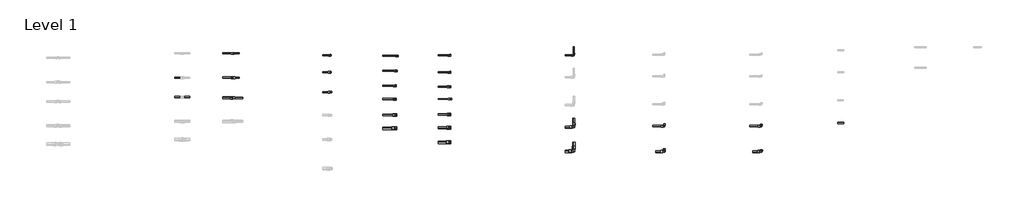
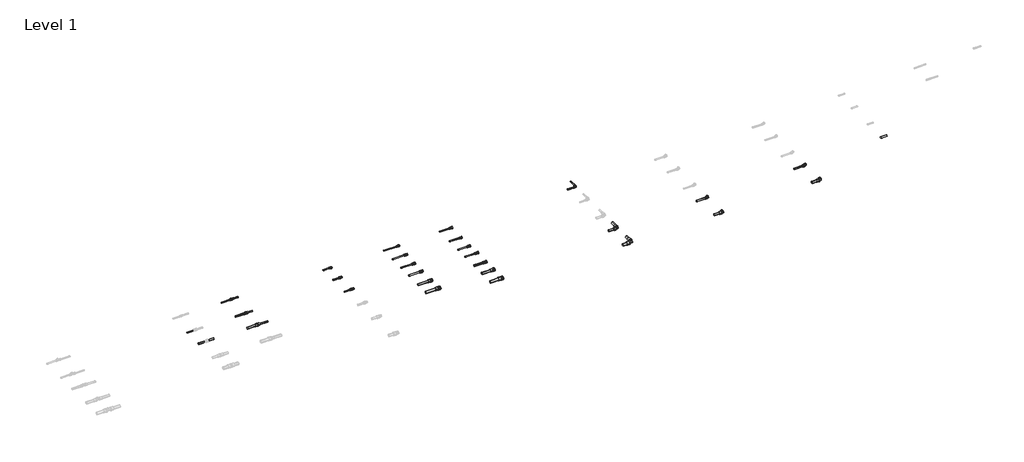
# One storey, part 11 of 78: 36 pipe segments, 26 pipe fittings.
"""IFC4 building model written with IfcOpenShell, lengths in millimetres."""

from ifc_helpers import new_model, si_unit, point, frame, frame_2d, origin, place, context, project, spatial, circle_curve, trimmed, segment, composite_curve, outline, extrude, transform, mapped, element, save
from components import pipe_fitting_bf755f27, pipe_fitting_e93012df, pipe_fitting_836a2278, pipe_fitting_b55198ad, pipe_fitting_0b32e4b0, pipe_fitting_0562571e, pipe_fitting_d14a7251, pipe_fitting_38e91122, pipe_fitting_ee510fd7, pipe_fitting_a340ff43, pipe_fitting_d52baa13, pipe_fitting_c8bca06d, pipe_fitting_5bbd4ca1, pipe_fitting_80b7091b, pipe_fitting_ce7225c3, pipe_fitting_edf19c19, pipe_fitting_f2230aa0, pipe_fitting_b873231b, pipe_fitting_68aa3d98, pipe_fitting_ea484583, pipe_fitting_c3764643, pipe_fitting_f8d70d0e, pipe_fitting_18fcccac, pipe_fitting_1e296f3b, pipe_fitting_52b87474, pipe_fitting_f7ee4d9f

model = new_model("IFC4")

# Units and contexts
model_context = context("Model", 3, world=origin())
ifc_project = project(units=[si_unit("LENGTHUNIT", "METRE", prefix="MILLI")], contexts=[model_context])

# Site, building, storey
site = spatial("IfcSite", under=ifc_project)
building = spatial("IfcBuilding", under=site)
storey = spatial("IfcBuildingStorey", under=building, Name="Level 1", Elevation=0.0)

# Pipe fittings
placement = place(None, origin())
pipe_fitting_shape = pipe_fitting_bf755f27(model_context)
element("IfcPipeFitting", 1, ObjectType="FASTLOC_Adapter with union nut LX : FSL A union nut FR", at=placement, inside=storey, context=model_context, shape_type="MappedRepresentation", body=[
    mapped(pipe_fitting_shape, transform((9492.2422207, -28330.7057457, 0.0), x_axis=(1.0, 0.0, 0.0), y_axis=(0.0, 1.0, 0.0), z_axis=(0.0, 0.0, 1.0))),
])
pipe_fitting_2_shape = pipe_fitting_e93012df(model_context)
element("IfcPipeFitting", 2, ObjectType="FASTLOC_Adapter_LX, with external thread : FSL A C external FR", at=placement, inside=storey, context=model_context, shape_type="MappedRepresentation", body=[
    mapped(pipe_fitting_2_shape, transform((7526.3785179, -27135.7057457, 0.0), x_axis=(1.0, 0.0, 0.0), y_axis=(0.0, 1.0, 0.0), z_axis=(0.0, 0.0, 1.0))),
])
pipe_fitting_3_shape = pipe_fitting_836a2278(model_context)
element("IfcPipeFitting", 3, ObjectType="FASTLOC_Adapter_LX, with internal thread : FSL A internal FR", at=placement, inside=storey, context=model_context, shape_type="MappedRepresentation", body=[
    mapped(pipe_fitting_3_shape, transform((8631.9138788, -27146.1148632, 0.0), x_axis=(1.0, 0.0, 0.0), y_axis=(0.0, 1.0, 0.0), z_axis=(0.0, 0.0, 1.0))),
])
pipe_fitting_4_shape = pipe_fitting_b55198ad(model_context)
element("IfcPipeFitting", 4, ObjectType="FASTLOC_Corner LX : FSL C LX FR", at=placement, inside=storey, context=model_context, shape_type="MappedRepresentation", body=[
    mapped(pipe_fitting_4_shape, transform((11545.4707441, -27138.8136389, 0.0), x_axis=(1.0, 0.0, 0.0), y_axis=(0.0, 1.0, 0.0), z_axis=(0.0, 0.0, 1.0))),
])
pipe_fitting_5_shape = pipe_fitting_0b32e4b0(model_context)
element("IfcPipeFitting", 5, ObjectType="FASTLOC_Coupling reduced LX : FSL C LX FR", at=placement, inside=storey, context=model_context, shape_type="MappedRepresentation", body=[
    mapped(pipe_fitting_5_shape, transform((5926.6928556, -27105.8821283, 0.0), x_axis=(1.0, 0.0, 0.0), y_axis=(0.0, 1.0, 0.0), z_axis=(0.0, 0.0, 1.0))),
])
pipe_fitting_6_shape = pipe_fitting_0562571e(model_context)
element("IfcPipeFitting", 6, ObjectType="FASTLOC_Coupling reduced LX : FSL C LX FR", at=placement, inside=storey, context=model_context, shape_type="MappedRepresentation", body=[
    mapped(pipe_fitting_6_shape, transform((5926.6928556, -27505.8821283, 0.0), x_axis=(1.0, 0.0, 0.0), y_axis=(0.0, 1.0, 0.0), z_axis=(0.0, 0.0, 1.0))),
])
pipe_fitting_7_shape = pipe_fitting_d14a7251(model_context)
element("IfcPipeFitting", 7, ObjectType="FASTLOC_Coupling reduced LX : FSL C LX FR", at=placement, inside=storey, context=model_context, shape_type="MappedRepresentation", body=[
    mapped(pipe_fitting_7_shape, transform((5926.6928556, -27838.3821283, 0.0), x_axis=(1.0, 0.0, 0.0), y_axis=(0.0, 1.0, 0.0), z_axis=(0.0, 0.0, 1.0))),
])
pipe_fitting_8_shape = pipe_fitting_38e91122(model_context)
element("IfcPipeFitting", 8, ObjectType="FASTLOC_Adapter_LX, with external thread : FSL A C external FR", at=placement, inside=storey, context=model_context, shape_type="MappedRepresentation", body=[
    mapped(pipe_fitting_8_shape, transform((7526.8953131, -27414.2068389, 0.0), x_axis=(1.0, 0.0, 0.0), y_axis=(0.0, 1.0, 0.0), z_axis=(0.0, 0.0, 1.0))),
])
pipe_fitting_9_shape = pipe_fitting_ee510fd7(model_context)
element("IfcPipeFitting", 9, ObjectType="FASTLOC_Adapter_LX, with external thread : FSL A C external FR", at=placement, inside=storey, context=model_context, shape_type="MappedRepresentation", body=[
    mapped(pipe_fitting_9_shape, transform((7526.8953131, -27744.2068389, 0.0), x_axis=(1.0, 0.0, 0.0), y_axis=(0.0, 1.0, 0.0), z_axis=(0.0, 0.0, 1.0))),
])
pipe_fitting_10_shape = pipe_fitting_a340ff43(model_context)
element("IfcPipeFitting", 10, ObjectType="FASTLOC_Adapter with union nut LX : FSL A union nut FR", at=placement, inside=storey, context=model_context, shape_type="MappedRepresentation", body=[
    mapped(pipe_fitting_10_shape, transform((9492.2422207, -27415.7057457, 0.0), x_axis=(1.0, 0.0, 0.0), y_axis=(0.0, 1.0, 0.0), z_axis=(0.0, 0.0, 1.0))),
])
pipe_fitting_11_shape = pipe_fitting_d52baa13(model_context)
element("IfcPipeFitting", 11, ObjectType="FASTLOC_Adapter with union nut LX : FSL A union nut FR", at=placement, inside=storey, context=model_context, shape_type="MappedRepresentation", body=[
    mapped(pipe_fitting_11_shape, transform((9492.2422207, -27655.7057457, 0.0), x_axis=(1.0, 0.0, 0.0), y_axis=(0.0, 1.0, 0.0), z_axis=(0.0, 0.0, 1.0))),
])
pipe_fitting_12_shape = pipe_fitting_c8bca06d(model_context)
element("IfcPipeFitting", 12, ObjectType="FASTLOC_Adapter with union nut LX : FSL A union nut FR", at=placement, inside=storey, context=model_context, shape_type="MappedRepresentation", body=[
    mapped(pipe_fitting_12_shape, transform((9506.3843564, -27856.5636101, 0.0), x_axis=(1.0, 0.0, 0.0), y_axis=(0.0, 1.0, 0.0), z_axis=(0.0, 0.0, 1.0))),
])
pipe_fitting_13_shape = pipe_fitting_5bbd4ca1(model_context)
element("IfcPipeFitting", 13, ObjectType="FASTLOC_Adapter with union nut LX : FSL A union nut FR", at=placement, inside=storey, context=model_context, shape_type="MappedRepresentation", body=[
    mapped(pipe_fitting_13_shape, transform((9492.2422207, -28110.7057457, 0.0), x_axis=(1.0, 0.0, 0.0), y_axis=(0.0, 1.0, 0.0), z_axis=(0.0, 0.0, 1.0))),
])
pipe_fitting_14_shape = pipe_fitting_80b7091b(model_context)
element("IfcPipeFitting", 14, ObjectType="FASTLOC_Adapter with union nut LX : FSL A union nut FR", at=placement, inside=storey, context=model_context, shape_type="MappedRepresentation", body=[
    mapped(pipe_fitting_14_shape, transform((9492.2422207, -28570.7057457, 0.0), x_axis=(1.0, 0.0, 0.0), y_axis=(0.0, 1.0, 0.0), z_axis=(0.0, 0.0, 1.0))),
])
pipe_fitting_15_shape = pipe_fitting_ce7225c3(model_context)
element("IfcPipeFitting", 15, ObjectType="FASTLOC_Adapter with union nut LX : FSL A union nut FR", at=placement, inside=storey, context=model_context, shape_type="MappedRepresentation", body=[
    mapped(pipe_fitting_15_shape, transform((9492.2422207, -27135.7057457, 0.0), x_axis=(1.0, 0.0, 0.0), y_axis=(0.0, 1.0, 0.0), z_axis=(0.0, 0.0, 1.0))),
])
pipe_fitting_16_shape = pipe_fitting_edf19c19(model_context)
element("IfcPipeFitting", 16, ObjectType="FASTLOC_Corner LX : FSL C LX FR", at=placement, inside=storey, context=model_context, shape_type="MappedRepresentation", body=[
    mapped(pipe_fitting_16_shape, transform((11545.4707441, -28318.8136389, 0.0), x_axis=(1.0, 0.0, 0.0), y_axis=(0.0, 1.0, 0.0), z_axis=(0.0, 0.0, 1.0))),
])
pipe_fitting_17_shape = pipe_fitting_f2230aa0(model_context)
element("IfcPipeFitting", 17, ObjectType="FASTLOC_Corner LX : FSL C LX FR", at=placement, inside=storey, context=model_context, shape_type="MappedRepresentation", body=[
    mapped(pipe_fitting_17_shape, transform((11545.4707441, -28718.8136389, 0.0), x_axis=(1.0, 0.0, 0.0), y_axis=(0.0, 1.0, 0.0), z_axis=(0.0, 0.0, 1.0))),
])
pipe_fitting_18_shape = pipe_fitting_b873231b(model_context)
element("IfcPipeFitting", 18, ObjectType="FASTLOC_Elbow with male thread LX : FSL A internal FR", at=placement, inside=storey, context=model_context, shape_type="MappedRepresentation", body=[
    mapped(pipe_fitting_18_shape, transform((13036.9744513, -28304.4914884, 0.0), x_axis=(1.0, 0.0, 0.0), y_axis=(0.0, 1.0, 0.0), z_axis=(0.0, 0.0, 1.0))),
])
pipe_fitting_19_shape = pipe_fitting_68aa3d98(model_context)
element("IfcPipeFitting", 19, ObjectType="FASTLOC_Elbow with male thread LX : FSL A internal FR", at=placement, inside=storey, context=model_context, shape_type="MappedRepresentation", body=[
    mapped(pipe_fitting_19_shape, transform((13036.9744513, -28724.4914884, 0.0), x_axis=(1.0, 0.0, 0.0), y_axis=(0.0, 1.0, 0.0), z_axis=(0.0, 0.0, 1.0))),
])
pipe_fitting_20_shape = pipe_fitting_ea484583(model_context)
element("IfcPipeFitting", 20, ObjectType="FASTLOC_Elbow with female thread LX : FSL A internal FR", at=placement, inside=storey, context=model_context, shape_type="MappedRepresentation", body=[
    mapped(pipe_fitting_20_shape, transform((14636.9744513, -28304.4914884, 0.0), x_axis=(1.0, 0.0, 0.0), y_axis=(0.0, 1.0, 0.0), z_axis=(0.0, 0.0, 1.0))),
])
pipe_fitting_21_shape = pipe_fitting_c3764643(model_context)
element("IfcPipeFitting", 21, ObjectType="FASTLOC_Elbow with female thread LX : FSL A internal FR", at=placement, inside=storey, context=model_context, shape_type="MappedRepresentation", body=[
    mapped(pipe_fitting_21_shape, transform((14636.9744513, -28724.4914884, 0.0), x_axis=(1.0, 0.0, 0.0), y_axis=(0.0, 1.0, 0.0), z_axis=(0.0, 0.0, 1.0))),
])
pipe_fitting_22_shape = pipe_fitting_f8d70d0e(model_context)
element("IfcPipeFitting", 22, ObjectType="FASTLOC_Adapter_LX, with internal thread : FSL A internal FR", at=placement, inside=storey, context=model_context, shape_type="MappedRepresentation", body=[
    mapped(pipe_fitting_22_shape, transform((8602.7717432, -27640.2569989, 0.0), x_axis=(1.0, 0.0, 0.0), y_axis=(0.0, 1.0, 0.0), z_axis=(0.0, 0.0, 1.0))),
])
pipe_fitting_23_shape = pipe_fitting_18fcccac(model_context)
element("IfcPipeFitting", 23, ObjectType="FASTLOC_Adapter_LX, with internal thread : FSL A internal FR", at=placement, inside=storey, context=model_context, shape_type="MappedRepresentation", body=[
    mapped(pipe_fitting_23_shape, transform((8602.7717432, -27860.2569989, 0.0), x_axis=(1.0, 0.0, 0.0), y_axis=(0.0, 1.0, 0.0), z_axis=(0.0, 0.0, 1.0))),
])
pipe_fitting_24_shape = pipe_fitting_1e296f3b(model_context)
element("IfcPipeFitting", 24, ObjectType="FASTLOC_Adapter_LX, with internal thread : FSL A internal FR", at=placement, inside=storey, context=model_context, shape_type="MappedRepresentation", body=[
    mapped(pipe_fitting_24_shape, transform((8602.7717432, -28120.2569989, 0.0), x_axis=(1.0, 0.0, 0.0), y_axis=(0.0, 1.0, 0.0), z_axis=(0.0, 0.0, 1.0))),
])
pipe_fitting_25_shape = pipe_fitting_52b87474(model_context)
element("IfcPipeFitting", 25, ObjectType="FASTLOC_Adapter_LX, with internal thread : FSL A internal FR", at=placement, inside=storey, context=model_context, shape_type="MappedRepresentation", body=[
    mapped(pipe_fitting_25_shape, transform((8602.7717432, -28340.2569989, 0.0), x_axis=(1.0, 0.0, 0.0), y_axis=(0.0, 1.0, 0.0), z_axis=(0.0, 0.0, 1.0))),
])
pipe_fitting_26_shape = pipe_fitting_f7ee4d9f(model_context)
element("IfcPipeFitting", 26, ObjectType="FASTLOC_Adapter_LX, with internal thread : FSL A internal FR", at=placement, inside=storey, context=model_context, shape_type="MappedRepresentation", body=[
    mapped(pipe_fitting_26_shape, transform((8619.5138788, -27392.5715861, 0.0), x_axis=(1.0, 0.0, 0.0), y_axis=(0.0, 1.0, 0.0), z_axis=(0.0, 0.0, 1.0))),
])

# Pipe segments
element("IfcPipeSegment", 27, ObjectType="FASTLOC LX ML FR bar", at=placement, inside=storey, context=model_context, shape_type="SweptSolid", body=[
    extrude(outline(composite_curve([segment(trimmed(circle_curve(frame_2d((-27505.8821283, 0.0)), 8.0), [point((-27497.8821283, 0.0))], [point((-27505.8821283, -8.0))], False, "CARTESIAN"), True, "CONTINUOUS"), segment(trimmed(circle_curve(frame_2d((-27505.8821283, 0.0)), 8.0), [point((-27505.8821283, -8.0))], [point((-27513.8821283, 0.0))], False, "CARTESIAN"), True, "CONTINUOUS"), segment(trimmed(circle_curve(frame_2d((-27505.8821283, 0.0)), 8.0), [point((-27513.8821283, 0.0))], [point((-27505.8821283, 8.0))], False, "CARTESIAN"), True, "CONTINUOUS"), segment(trimmed(circle_curve(frame_2d((-27505.8821283, 0.0)), 8.0), [point((-27505.8821283, 8.0))], [point((-27497.8821283, 0.0))], False, "CARTESIAN"), True, "CONTINUOUS")], self_intersect=False)), frame((4961.1790161, 0.0, 0.0), z_axis=(1.0, 0.0, 0.0), x_axis=(0.0, 1.0, 0.0)), (0.0, 0.0, 1.0), 119.8),
])
element("IfcPipeSegment", 28, ObjectType="FASTLOC LX ML FR bar", at=placement, inside=storey, context=model_context, shape_type="SweptSolid", body=[
    extrude(outline(composite_curve([segment(trimmed(circle_curve(frame_2d((-27825.8821283, 0.0)), 12.5), [point((-27838.3821283, 0.0))], [point((-27825.8821283, 12.5))], False, "CARTESIAN"), True, "CONTINUOUS"), segment(trimmed(circle_curve(frame_2d((-27825.8821283, 0.0)), 12.5), [point((-27825.8821283, 12.5))], [point((-27813.3821283, 0.0))], False, "CARTESIAN"), True, "CONTINUOUS"), segment(trimmed(circle_curve(frame_2d((-27825.8821283, 0.0)), 12.5), [point((-27813.3821283, 0.0))], [point((-27825.8821283, -12.5))], False, "CARTESIAN"), True, "CONTINUOUS"), segment(trimmed(circle_curve(frame_2d((-27825.8821283, 0.0)), 12.5), [point((-27825.8821283, -12.5))], [point((-27838.3821283, 0.0))], False, "CARTESIAN"), True, "CONTINUOUS")], self_intersect=False)), frame((5096.3790161, 0.0, 0.0), z_axis=(1.0, 0.0, 0.0), x_axis=(0.0, 1.0, 0.0)), (0.0, 0.0, 1.0), 114.2),
])
element("IfcPipeSegment", 29, ObjectType="FASTLOC LX ML FR bar", at=placement, inside=storey, context=model_context, shape_type="SweptSolid", body=[
    extrude(outline(composite_curve([segment(trimmed(circle_curve(frame_2d((-27825.8821283, 0.0)), 12.5), [point((-27813.3821283, 0.0))], [point((-27825.8821283, -12.5))], False, "CARTESIAN"), True, "CONTINUOUS"), segment(trimmed(circle_curve(frame_2d((-27825.8821283, 0.0)), 12.5), [point((-27825.8821283, -12.5))], [point((-27838.3821283, 0.0))], False, "CARTESIAN"), True, "CONTINUOUS"), segment(trimmed(circle_curve(frame_2d((-27825.8821283, 0.0)), 12.5), [point((-27838.3821283, 0.0))], [point((-27825.8821283, 12.5))], False, "CARTESIAN"), True, "CONTINUOUS"), segment(trimmed(circle_curve(frame_2d((-27825.8821283, 0.0)), 12.5), [point((-27825.8821283, 12.5))], [point((-27813.3821283, 0.0))], False, "CARTESIAN"), True, "CONTINUOUS")], self_intersect=False)), frame((4961.1790161, 0.0, 0.0), z_axis=(1.0, 0.0, 0.0), x_axis=(0.0, 1.0, 0.0)), (0.0, 0.0, 1.0), 119.2),
])
element("IfcPipeSegment", 30, ObjectType="FASTLOC LX ML FR bar", at=placement, inside=storey, context=model_context, shape_type="SweptSolid", body=[
    extrude(outline(composite_curve([segment(trimmed(circle_curve(frame_2d((-27105.8821283, 0.0)), 8.0), [point((-27113.8821283, 0.0))], [point((-27105.8821283, 8.0))], False, "CARTESIAN"), True, "CONTINUOUS"), segment(trimmed(circle_curve(frame_2d((-27105.8821283, 0.0)), 8.0), [point((-27105.8821283, 8.0))], [point((-27097.8821283, 0.0))], False, "CARTESIAN"), True, "CONTINUOUS"), segment(trimmed(circle_curve(frame_2d((-27105.8821283, 0.0)), 8.0), [point((-27097.8821283, 0.0))], [point((-27105.8821283, -8.0))], False, "CARTESIAN"), True, "CONTINUOUS"), segment(trimmed(circle_curve(frame_2d((-27105.8821283, 0.0)), 8.0), [point((-27105.8821283, -8.0))], [point((-27113.8821283, 0.0))], False, "CARTESIAN"), True, "CONTINUOUS")], self_intersect=False)), frame((5932.9928556, 0.0, 0.0), z_axis=(1.0, 0.0, 0.0), x_axis=(0.0, 1.0, 0.0)), (0.0, 0.0, 1.0), 95.0),
])
element("IfcPipeSegment", 31, ObjectType="FASTLOC LX ML FR bar", at=placement, inside=storey, context=model_context, shape_type="SweptSolid", body=[
    extrude(outline(composite_curve([segment(trimmed(circle_curve(frame_2d((-27105.8821283, 0.0)), 8.0), [point((-27097.8821283, 0.0))], [point((-27105.8821283, -8.0))], False, "CARTESIAN"), True, "CONTINUOUS"), segment(trimmed(circle_curve(frame_2d((-27105.8821283, 0.0)), 8.0), [point((-27105.8821283, -8.0))], [point((-27113.8821283, 0.0))], False, "CARTESIAN"), True, "CONTINUOUS"), segment(trimmed(circle_curve(frame_2d((-27105.8821283, 0.0)), 8.0), [point((-27113.8821283, 0.0))], [point((-27105.8821283, 8.0))], False, "CARTESIAN"), True, "CONTINUOUS"), segment(trimmed(circle_curve(frame_2d((-27105.8821283, 0.0)), 8.0), [point((-27105.8821283, 8.0))], [point((-27097.8821283, 0.0))], False, "CARTESIAN"), True, "CONTINUOUS")], self_intersect=False)), frame((5752.9928556, 0.0, 0.0), z_axis=(1.0, 0.0, 0.0), x_axis=(0.0, 1.0, 0.0)), (0.0, 0.0, 1.0), 165.0),
])
element("IfcPipeSegment", 32, ObjectType="FASTLOC LX ML FR bar", at=placement, inside=storey, context=model_context, shape_type="SweptSolid", body=[
    extrude(outline(composite_curve([segment(trimmed(circle_curve(frame_2d((-27505.8821283, 0.0)), 12.5), [point((-27493.3821283, 0.0))], [point((-27505.8821283, -12.5))], False, "CARTESIAN"), True, "CONTINUOUS"), segment(trimmed(circle_curve(frame_2d((-27505.8821283, 0.0)), 12.5), [point((-27505.8821283, -12.5))], [point((-27518.3821283, 0.0))], False, "CARTESIAN"), True, "CONTINUOUS"), segment(trimmed(circle_curve(frame_2d((-27505.8821283, 0.0)), 12.5), [point((-27518.3821283, 0.0))], [point((-27505.8821283, 12.5))], False, "CARTESIAN"), True, "CONTINUOUS"), segment(trimmed(circle_curve(frame_2d((-27505.8821283, 0.0)), 12.5), [point((-27505.8821283, 12.5))], [point((-27493.3821283, 0.0))], False, "CARTESIAN"), True, "CONTINUOUS")], self_intersect=False)), frame((5752.9928556, 0.0, 0.0), z_axis=(1.0, 0.0, 0.0), x_axis=(0.0, 1.0, 0.0)), (0.0, 0.0, 1.0), 163.9),
])
element("IfcPipeSegment", 33, ObjectType="FASTLOC LX ML FR bar", at=placement, inside=storey, context=model_context, shape_type="SweptSolid", body=[
    extrude(outline(composite_curve([segment(trimmed(circle_curve(frame_2d((-27505.8821283, 0.0)), 8.0), [point((-27513.8821283, 0.0))], [point((-27505.8821283, 8.0))], False, "CARTESIAN"), True, "CONTINUOUS"), segment(trimmed(circle_curve(frame_2d((-27505.8821283, 0.0)), 8.0), [point((-27505.8821283, 8.0))], [point((-27497.8821283, 0.0))], False, "CARTESIAN"), True, "CONTINUOUS"), segment(trimmed(circle_curve(frame_2d((-27505.8821283, 0.0)), 8.0), [point((-27497.8821283, 0.0))], [point((-27505.8821283, -8.0))], False, "CARTESIAN"), True, "CONTINUOUS"), segment(trimmed(circle_curve(frame_2d((-27505.8821283, 0.0)), 8.0), [point((-27505.8821283, -8.0))], [point((-27513.8821283, 0.0))], False, "CARTESIAN"), True, "CONTINUOUS")], self_intersect=False)), frame((5932.3928556, 0.0, 0.0), z_axis=(1.0, 0.0, 0.0), x_axis=(0.0, 1.0, 0.0)), (0.0, 0.0, 1.0), 95.6),
])
element("IfcPipeSegment", 34, ObjectType="FASTLOC LX ML FR bar", at=placement, inside=storey, context=model_context, shape_type="SweptSolid", body=[
    extrude(outline(composite_curve([segment(trimmed(circle_curve(frame_2d((-27135.7057457, 0.0)), 8.0), [point((-27127.7057457, 0.0))], [point((-27135.7057457, -8.0))], False, "CARTESIAN"), True, "CONTINUOUS"), segment(trimmed(circle_curve(frame_2d((-27135.7057457, 0.0)), 8.0), [point((-27135.7057457, -8.0))], [point((-27143.7057457, 0.0))], False, "CARTESIAN"), True, "CONTINUOUS"), segment(trimmed(circle_curve(frame_2d((-27135.7057457, 0.0)), 8.0), [point((-27143.7057457, 0.0))], [point((-27135.7057457, 8.0))], False, "CARTESIAN"), True, "CONTINUOUS"), segment(trimmed(circle_curve(frame_2d((-27135.7057457, 0.0)), 8.0), [point((-27135.7057457, 8.0))], [point((-27127.7057457, 0.0))], False, "CARTESIAN"), True, "CONTINUOUS")], self_intersect=False)), frame((7402.0785179, 0.0, 0.0), z_axis=(1.0, 0.0, 0.0), x_axis=(0.0, 1.0, 0.0)), (0.0, 0.0, 1.0), 115.4),
])
element("IfcPipeSegment", 35, ObjectType="FASTLOC LX ML FR bar", at=placement, inside=storey, context=model_context, shape_type="SweptSolid", body=[
    extrude(outline(composite_curve([segment(trimmed(circle_curve(frame_2d((-27414.2068389, 0.0)), 8.0), [point((-27406.2068389, 0.0))], [point((-27414.2068389, -8.0))], False, "CARTESIAN"), True, "CONTINUOUS"), segment(trimmed(circle_curve(frame_2d((-27414.2068389, 0.0)), 8.0), [point((-27414.2068389, -8.0))], [point((-27422.2068389, 0.0))], False, "CARTESIAN"), True, "CONTINUOUS"), segment(trimmed(circle_curve(frame_2d((-27414.2068389, 0.0)), 8.0), [point((-27422.2068389, 0.0))], [point((-27414.2068389, 8.0))], False, "CARTESIAN"), True, "CONTINUOUS"), segment(trimmed(circle_curve(frame_2d((-27414.2068389, 0.0)), 8.0), [point((-27414.2068389, 8.0))], [point((-27406.2068389, 0.0))], False, "CARTESIAN"), True, "CONTINUOUS")], self_intersect=False)), frame((7402.0785179, 0.0, 0.0), z_axis=(1.0, 0.0, 0.0), x_axis=(0.0, 1.0, 0.0)), (0.0, 0.0, 1.0), 116.1167951),
])
element("IfcPipeSegment", 36, ObjectType="FASTLOC LX ML FR bar", at=placement, inside=storey, context=model_context, shape_type="SweptSolid", body=[
    extrude(outline(composite_curve([segment(trimmed(circle_curve(frame_2d((-27744.2068389, 0.0)), 8.0), [point((-27736.2068389, 0.0))], [point((-27744.2068389, -8.0))], False, "CARTESIAN"), True, "CONTINUOUS"), segment(trimmed(circle_curve(frame_2d((-27744.2068389, 0.0)), 8.0), [point((-27744.2068389, -8.0))], [point((-27752.2068389, 0.0))], False, "CARTESIAN"), True, "CONTINUOUS"), segment(trimmed(circle_curve(frame_2d((-27744.2068389, 0.0)), 8.0), [point((-27752.2068389, 0.0))], [point((-27744.2068389, 8.0))], False, "CARTESIAN"), True, "CONTINUOUS"), segment(trimmed(circle_curve(frame_2d((-27744.2068389, 0.0)), 8.0), [point((-27744.2068389, 8.0))], [point((-27736.2068389, 0.0))], False, "CARTESIAN"), True, "CONTINUOUS")], self_intersect=False)), frame((7402.0785179, 0.0, 0.0), z_axis=(1.0, 0.0, 0.0), x_axis=(0.0, 1.0, 0.0)), (0.0, 0.0, 1.0), 115.5167951),
])
element("IfcPipeSegment", 37, ObjectType="FASTLOC LX ML FR bar", at=placement, inside=storey, context=model_context, shape_type="SweptSolid", body=[
    extrude(outline(composite_curve([segment(trimmed(circle_curve(frame_2d((-27146.1148632, 0.0)), 8.0), [point((-27138.1148632, 0.0))], [point((-27146.1148632, -8.0))], False, "CARTESIAN"), True, "CONTINUOUS"), segment(trimmed(circle_curve(frame_2d((-27146.1148632, 0.0)), 8.0), [point((-27146.1148632, -8.0))], [point((-27154.1148632, 0.0))], False, "CARTESIAN"), True, "CONTINUOUS"), segment(trimmed(circle_curve(frame_2d((-27146.1148632, 0.0)), 8.0), [point((-27154.1148632, 0.0))], [point((-27146.1148632, 8.0))], False, "CARTESIAN"), True, "CONTINUOUS"), segment(trimmed(circle_curve(frame_2d((-27146.1148632, 0.0)), 8.0), [point((-27146.1148632, 8.0))], [point((-27138.1148632, 0.0))], False, "CARTESIAN"), True, "CONTINUOUS")], self_intersect=False)), frame((8390.3717432, 0.0, 0.0), z_axis=(1.0, 0.0, 0.0), x_axis=(0.0, 1.0, 0.0)), (0.0, 0.0, 1.0), 229.1421356),
])
element("IfcPipeSegment", 38, ObjectType="FASTLOC LX ML FR bar", at=placement, inside=storey, context=model_context, shape_type="SweptSolid", body=[
    extrude(outline(composite_curve([segment(trimmed(circle_curve(frame_2d((-27138.8136389, 0.0)), 8.0), [point((-27130.8136389, 0.0))], [point((-27138.8136389, -8.0))], False, "CARTESIAN"), True, "CONTINUOUS"), segment(trimmed(circle_curve(frame_2d((-27138.8136389, 0.0)), 8.0), [point((-27138.8136389, -8.0))], [point((-27146.8136389, 0.0))], False, "CARTESIAN"), True, "CONTINUOUS"), segment(trimmed(circle_curve(frame_2d((-27138.8136389, 0.0)), 8.0), [point((-27146.8136389, 0.0))], [point((-27138.8136389, 8.0))], False, "CARTESIAN"), True, "CONTINUOUS"), segment(trimmed(circle_curve(frame_2d((-27138.8136389, 0.0)), 8.0), [point((-27138.8136389, 8.0))], [point((-27130.8136389, 0.0))], False, "CARTESIAN"), True, "CONTINUOUS")], self_intersect=False)), frame((11403.3707441, 0.0, 0.0), z_axis=(1.0, 0.0, 0.0), x_axis=(0.0, 1.0, 0.0)), (0.0, 0.0, 1.0), 120.0),
])
element("IfcPipeSegment", 39, ObjectType="FASTLOC LX ML FR bar", at=placement, inside=storey, context=model_context, shape_type="SweptSolid", body=[
    extrude(outline(composite_curve([segment(trimmed(circle_curve(frame_2d((0.0, 11545.4707441)), 8.0), [point((0.0, 11553.4707441))], [point((8.0, 11545.4707441))], False, "CARTESIAN"), True, "CONTINUOUS"), segment(trimmed(circle_curve(frame_2d((0.0, 11545.4707441)), 8.0), [point((8.0, 11545.4707441))], [point((0.0, 11537.4707441))], False, "CARTESIAN"), True, "CONTINUOUS"), segment(trimmed(circle_curve(frame_2d((0.0, 11545.4707441)), 8.0), [point((0.0, 11537.4707441))], [point((-8.0, 11545.4707441))], False, "CARTESIAN"), True, "CONTINUOUS"), segment(trimmed(circle_curve(frame_2d((0.0, 11545.4707441)), 8.0), [point((-8.0, 11545.4707441))], [point((0.0, 11553.4707441))], False, "CARTESIAN"), True, "CONTINUOUS")], self_intersect=False)), frame((0.0, -27116.7136389, 0.0), z_axis=(0.0, 1.0, 0.0), x_axis=(0.0, 0.0, 1.0)), (0.0, 0.0, 1.0), 125.0),
])
element("IfcPipeSegment", 40, ObjectType="FASTLOC LX ML FR bar", at=placement, inside=storey, context=model_context, shape_type="SweptSolid", body=[
    extrude(outline(composite_curve([segment(trimmed(circle_curve(frame_2d((-28318.8136389, 0.0)), 16.0), [point((-28302.8136389, 0.0))], [point((-28318.8136389, -16.0))], False, "CARTESIAN"), True, "CONTINUOUS"), segment(trimmed(circle_curve(frame_2d((-28318.8136389, 0.0)), 16.0), [point((-28318.8136389, -16.0))], [point((-28334.8136389, 0.0))], False, "CARTESIAN"), True, "CONTINUOUS"), segment(trimmed(circle_curve(frame_2d((-28318.8136389, 0.0)), 16.0), [point((-28334.8136389, 0.0))], [point((-28318.8136389, 16.0))], False, "CARTESIAN"), True, "CONTINUOUS"), segment(trimmed(circle_curve(frame_2d((-28318.8136389, 0.0)), 16.0), [point((-28318.8136389, 16.0))], [point((-28302.8136389, 0.0))], False, "CARTESIAN"), True, "CONTINUOUS")], self_intersect=False)), frame((11403.3707441, 0.0, 0.0), z_axis=(1.0, 0.0, 0.0), x_axis=(0.0, 1.0, 0.0)), (0.0, 0.0, 1.0), 107.1),
])
element("IfcPipeSegment", 41, ObjectType="FASTLOC LX ML FR bar", at=placement, inside=storey, context=model_context, shape_type="SweptSolid", body=[
    extrude(outline(composite_curve([segment(trimmed(circle_curve(frame_2d((0.0, 11545.4707441)), 16.0), [point((0.0, 11561.4707441))], [point((16.0, 11545.4707441))], False, "CARTESIAN"), True, "CONTINUOUS"), segment(trimmed(circle_curve(frame_2d((0.0, 11545.4707441)), 16.0), [point((16.0, 11545.4707441))], [point((0.0, 11529.4707441))], False, "CARTESIAN"), True, "CONTINUOUS"), segment(trimmed(circle_curve(frame_2d((0.0, 11545.4707441)), 16.0), [point((0.0, 11529.4707441))], [point((-16.0, 11545.4707441))], False, "CARTESIAN"), True, "CONTINUOUS"), segment(trimmed(circle_curve(frame_2d((0.0, 11545.4707441)), 16.0), [point((-16.0, 11545.4707441))], [point((0.0, 11561.4707441))], False, "CARTESIAN"), True, "CONTINUOUS")], self_intersect=False)), frame((0.0, -28283.8136389, 0.0), z_axis=(0.0, 1.0, 0.0), x_axis=(0.0, 0.0, 1.0)), (0.0, 0.0, 1.0), 112.1),
])
element("IfcPipeSegment", 42, ObjectType="FASTLOC LX ML FR bar", at=placement, inside=storey, context=model_context, shape_type="SweptSolid", body=[
    extrude(outline(composite_curve([segment(trimmed(circle_curve(frame_2d((-28718.8136389, 0.0)), 20.0), [point((-28698.8136389, 0.0))], [point((-28718.8136389, -20.0))], False, "CARTESIAN"), True, "CONTINUOUS"), segment(trimmed(circle_curve(frame_2d((-28718.8136389, 0.0)), 20.0), [point((-28718.8136389, -20.0))], [point((-28738.8136389, 0.0))], False, "CARTESIAN"), True, "CONTINUOUS"), segment(trimmed(circle_curve(frame_2d((-28718.8136389, 0.0)), 20.0), [point((-28738.8136389, 0.0))], [point((-28718.8136389, 20.0))], False, "CARTESIAN"), True, "CONTINUOUS"), segment(trimmed(circle_curve(frame_2d((-28718.8136389, 0.0)), 20.0), [point((-28718.8136389, 20.0))], [point((-28698.8136389, 0.0))], False, "CARTESIAN"), True, "CONTINUOUS")], self_intersect=False)), frame((11403.3707441, 0.0, 0.0), z_axis=(1.0, 0.0, 0.0), x_axis=(0.0, 1.0, 0.0)), (0.0, 0.0, 1.0), 97.4),
])
element("IfcPipeSegment", 43, ObjectType="FASTLOC LX ML FR bar", at=placement, inside=storey, context=model_context, shape_type="SweptSolid", body=[
    extrude(outline(composite_curve([segment(trimmed(circle_curve(frame_2d((0.0, 11545.4707441)), 20.0), [point((0.0, 11565.4707441))], [point((20.0, 11545.4707441))], False, "CARTESIAN"), True, "CONTINUOUS"), segment(trimmed(circle_curve(frame_2d((0.0, 11545.4707441)), 20.0), [point((20.0, 11545.4707441))], [point((0.0, 11525.4707441))], False, "CARTESIAN"), True, "CONTINUOUS"), segment(trimmed(circle_curve(frame_2d((0.0, 11545.4707441)), 20.0), [point((0.0, 11525.4707441))], [point((-20.0, 11545.4707441))], False, "CARTESIAN"), True, "CONTINUOUS"), segment(trimmed(circle_curve(frame_2d((0.0, 11545.4707441)), 20.0), [point((-20.0, 11545.4707441))], [point((0.0, 11565.4707441))], False, "CARTESIAN"), True, "CONTINUOUS")], self_intersect=False)), frame((0.0, -28674.1136389, 0.0), z_axis=(0.0, 1.0, 0.0), x_axis=(0.0, 0.0, 1.0)), (0.0, 0.0, 1.0), 102.4),
])
element("IfcPipeSegment", 44, ObjectType="FASTLOC LX ML FR bar", at=placement, inside=storey, context=model_context, shape_type="SweptSolid", body=[
    extrude(outline(composite_curve([segment(trimmed(circle_curve(frame_2d((-27392.5715861, 0.0)), 8.0), [point((-27384.5715861, 0.0))], [point((-27392.5715861, -8.0))], False, "CARTESIAN"), True, "CONTINUOUS"), segment(trimmed(circle_curve(frame_2d((-27392.5715861, 0.0)), 8.0), [point((-27392.5715861, -8.0))], [point((-27400.5715861, 0.0))], False, "CARTESIAN"), True, "CONTINUOUS"), segment(trimmed(circle_curve(frame_2d((-27392.5715861, 0.0)), 8.0), [point((-27400.5715861, 0.0))], [point((-27392.5715861, 8.0))], False, "CARTESIAN"), True, "CONTINUOUS"), segment(trimmed(circle_curve(frame_2d((-27392.5715861, 0.0)), 8.0), [point((-27392.5715861, 8.0))], [point((-27384.5715861, 0.0))], False, "CARTESIAN"), True, "CONTINUOUS")], self_intersect=False)), frame((8390.3717432, 0.0, 0.0), z_axis=(1.0, 0.0, 0.0), x_axis=(0.0, 1.0, 0.0)), (0.0, 0.0, 1.0), 217.4421356),
])
element("IfcPipeSegment", 45, ObjectType="FASTLOC LX ML FR bar", at=placement, inside=storey, context=model_context, shape_type="SweptSolid", body=[
    extrude(outline(composite_curve([segment(trimmed(circle_curve(frame_2d((-27640.2569989, 0.0)), 8.0), [point((-27632.2569989, 0.0))], [point((-27640.2569989, -8.0))], False, "CARTESIAN"), True, "CONTINUOUS"), segment(trimmed(circle_curve(frame_2d((-27640.2569989, 0.0)), 8.0), [point((-27640.2569989, -8.0))], [point((-27648.2569989, 0.0))], False, "CARTESIAN"), True, "CONTINUOUS"), segment(trimmed(circle_curve(frame_2d((-27640.2569989, 0.0)), 8.0), [point((-27648.2569989, 0.0))], [point((-27640.2569989, 8.0))], False, "CARTESIAN"), True, "CONTINUOUS"), segment(trimmed(circle_curve(frame_2d((-27640.2569989, 0.0)), 8.0), [point((-27640.2569989, 8.0))], [point((-27632.2569989, 0.0))], False, "CARTESIAN"), True, "CONTINUOUS")], self_intersect=False)), frame((8390.3717432, 0.0, 0.0), z_axis=(1.0, 0.0, 0.0), x_axis=(0.0, 1.0, 0.0)), (0.0, 0.0, 1.0), 199.1),
])
element("IfcPipeSegment", 46, ObjectType="FASTLOC LX ML FR bar", at=placement, inside=storey, context=model_context, shape_type="SweptSolid", body=[
    extrude(outline(composite_curve([segment(trimmed(circle_curve(frame_2d((-27860.2569989, 0.0)), 12.5), [point((-27847.7569989, 0.0))], [point((-27860.2569989, -12.5))], False, "CARTESIAN"), True, "CONTINUOUS"), segment(trimmed(circle_curve(frame_2d((-27860.2569989, 0.0)), 12.5), [point((-27860.2569989, -12.5))], [point((-27872.7569989, 0.0))], False, "CARTESIAN"), True, "CONTINUOUS"), segment(trimmed(circle_curve(frame_2d((-27860.2569989, 0.0)), 12.5), [point((-27872.7569989, 0.0))], [point((-27860.2569989, 12.5))], False, "CARTESIAN"), True, "CONTINUOUS"), segment(trimmed(circle_curve(frame_2d((-27860.2569989, 0.0)), 12.5), [point((-27860.2569989, 12.5))], [point((-27847.7569989, 0.0))], False, "CARTESIAN"), True, "CONTINUOUS")], self_intersect=False)), frame((8390.3717432, 0.0, 0.0), z_axis=(1.0, 0.0, 0.0), x_axis=(0.0, 1.0, 0.0)), (0.0, 0.0, 1.0), 199.5),
])
element("IfcPipeSegment", 47, ObjectType="FASTLOC LX ML FR bar", at=placement, inside=storey, context=model_context, shape_type="SweptSolid", body=[
    extrude(outline(composite_curve([segment(trimmed(circle_curve(frame_2d((-28120.2569989, 0.0)), 16.0), [point((-28104.2569989, 0.0))], [point((-28120.2569989, -16.0))], False, "CARTESIAN"), True, "CONTINUOUS"), segment(trimmed(circle_curve(frame_2d((-28120.2569989, 0.0)), 16.0), [point((-28120.2569989, -16.0))], [point((-28136.2569989, 0.0))], False, "CARTESIAN"), True, "CONTINUOUS"), segment(trimmed(circle_curve(frame_2d((-28120.2569989, 0.0)), 16.0), [point((-28136.2569989, 0.0))], [point((-28120.2569989, 16.0))], False, "CARTESIAN"), True, "CONTINUOUS"), segment(trimmed(circle_curve(frame_2d((-28120.2569989, 0.0)), 16.0), [point((-28120.2569989, 16.0))], [point((-28104.2569989, 0.0))], False, "CARTESIAN"), True, "CONTINUOUS")], self_intersect=False)), frame((8390.3717432, 0.0, 0.0), z_axis=(1.0, 0.0, 0.0), x_axis=(0.0, 1.0, 0.0)), (0.0, 0.0, 1.0), 197.9),
])
element("IfcPipeSegment", 48, ObjectType="FASTLOC LX ML FR bar", at=placement, inside=storey, context=model_context, shape_type="SweptSolid", body=[
    extrude(outline(composite_curve([segment(trimmed(circle_curve(frame_2d((-28340.2569989, 0.0)), 20.0), [point((-28320.2569989, 0.0))], [point((-28340.2569989, -20.0))], False, "CARTESIAN"), True, "CONTINUOUS"), segment(trimmed(circle_curve(frame_2d((-28340.2569989, 0.0)), 20.0), [point((-28340.2569989, -20.0))], [point((-28360.2569989, 0.0))], False, "CARTESIAN"), True, "CONTINUOUS"), segment(trimmed(circle_curve(frame_2d((-28340.2569989, 0.0)), 20.0), [point((-28360.2569989, 0.0))], [point((-28340.2569989, 20.0))], False, "CARTESIAN"), True, "CONTINUOUS"), segment(trimmed(circle_curve(frame_2d((-28340.2569989, 0.0)), 20.0), [point((-28340.2569989, 20.0))], [point((-28320.2569989, 0.0))], False, "CARTESIAN"), True, "CONTINUOUS")], self_intersect=False)), frame((8390.3717432, 0.0, 0.0), z_axis=(1.0, 0.0, 0.0), x_axis=(0.0, 1.0, 0.0)), (0.0, 0.0, 1.0), 192.4),
])
element("IfcPipeSegment", 49, ObjectType="FASTLOC LX ML FR bar", at=placement, inside=storey, context=model_context, shape_type="SweptSolid", body=[
    extrude(outline(composite_curve([segment(trimmed(circle_curve(frame_2d((-28304.4914884, 0.0)), 12.5), [point((-28291.9914884, 0.0))], [point((-28304.4914884, -12.5))], False, "CARTESIAN"), True, "CONTINUOUS"), segment(trimmed(circle_curve(frame_2d((-28304.4914884, 0.0)), 12.5), [point((-28304.4914884, -12.5))], [point((-28316.9914884, 0.0))], False, "CARTESIAN"), True, "CONTINUOUS"), segment(trimmed(circle_curve(frame_2d((-28304.4914884, 0.0)), 12.5), [point((-28316.9914884, 0.0))], [point((-28304.4914884, 12.5))], False, "CARTESIAN"), True, "CONTINUOUS"), segment(trimmed(circle_curve(frame_2d((-28304.4914884, 0.0)), 12.5), [point((-28304.4914884, 12.5))], [point((-28291.9914884, 0.0))], False, "CARTESIAN"), True, "CONTINUOUS")], self_intersect=False)), frame((12846.7744513, 0.0, 0.0), z_axis=(1.0, 0.0, 0.0), x_axis=(0.0, 1.0, 0.0)), (0.0, 0.0, 1.0), 166.0),
])
element("IfcPipeSegment", 50, ObjectType="FASTLOC LX ML FR bar", at=placement, inside=storey, context=model_context, shape_type="SweptSolid", body=[
    extrude(outline(composite_curve([segment(trimmed(circle_curve(frame_2d((-28724.4914884, 0.0)), 16.0), [point((-28708.4914884, 0.0))], [point((-28724.4914884, -16.0))], False, "CARTESIAN"), True, "CONTINUOUS"), segment(trimmed(circle_curve(frame_2d((-28724.4914884, 0.0)), 16.0), [point((-28724.4914884, -16.0))], [point((-28740.4914884, 0.0))], False, "CARTESIAN"), True, "CONTINUOUS"), segment(trimmed(circle_curve(frame_2d((-28724.4914884, 0.0)), 16.0), [point((-28740.4914884, 0.0))], [point((-28724.4914884, 16.0))], False, "CARTESIAN"), True, "CONTINUOUS"), segment(trimmed(circle_curve(frame_2d((-28724.4914884, 0.0)), 16.0), [point((-28724.4914884, 16.0))], [point((-28708.4914884, 0.0))], False, "CARTESIAN"), True, "CONTINUOUS")], self_intersect=False)), frame((12894.8744513, 0.0, 0.0), z_axis=(1.0, 0.0, 0.0), x_axis=(0.0, 1.0, 0.0)), (0.0, 0.0, 1.0), 112.4),
])
element("IfcPipeSegment", 51, ObjectType="FASTLOC LX ML FR bar", at=placement, inside=storey, context=model_context, shape_type="SweptSolid", body=[
    extrude(outline(composite_curve([segment(trimmed(circle_curve(frame_2d((-28250.4604595, 0.0)), 12.5), [point((-28237.9604595, 0.0))], [point((-28250.4604595, -12.5))], False, "CARTESIAN"), True, "CONTINUOUS"), segment(trimmed(circle_curve(frame_2d((-28250.4604595, 0.0)), 12.5), [point((-28250.4604595, -12.5))], [point((-28262.9604595, 0.0))], False, "CARTESIAN"), True, "CONTINUOUS"), segment(trimmed(circle_curve(frame_2d((-28250.4604595, 0.0)), 12.5), [point((-28262.9604595, 0.0))], [point((-28250.4604595, 12.5))], False, "CARTESIAN"), True, "CONTINUOUS"), segment(trimmed(circle_curve(frame_2d((-28250.4604595, 0.0)), 12.5), [point((-28250.4604595, 12.5))], [point((-28237.9604595, 0.0))], False, "CARTESIAN"), True, "CONTINUOUS")], self_intersect=False)), frame((15898.9809397, 0.0, 0.0), z_axis=(1.0, 0.0, 0.0), x_axis=(0.0, 1.0, 0.0)), (0.0, 0.0, 1.0), 95.4),
])
element("IfcPipeSegment", 52, ObjectType="FASTLOC LX ML FR bar", at=placement, inside=storey, context=model_context, shape_type="SweptSolid", body=[
    extrude(outline(composite_curve([segment(trimmed(circle_curve(frame_2d((-27838.3821283, 0.0)), 16.0), [point((-27822.3821283, 0.0))], [point((-27838.3821283, -16.0))], False, "CARTESIAN"), True, "CONTINUOUS"), segment(trimmed(circle_curve(frame_2d((-27838.3821283, 0.0)), 16.0), [point((-27838.3821283, -16.0))], [point((-27854.3821283, 0.0))], False, "CARTESIAN"), True, "CONTINUOUS"), segment(trimmed(circle_curve(frame_2d((-27838.3821283, 0.0)), 16.0), [point((-27854.3821283, 0.0))], [point((-27838.3821283, 16.0))], False, "CARTESIAN"), True, "CONTINUOUS"), segment(trimmed(circle_curve(frame_2d((-27838.3821283, 0.0)), 16.0), [point((-27838.3821283, 16.0))], [point((-27822.3821283, 0.0))], False, "CARTESIAN"), True, "CONTINUOUS")], self_intersect=False)), frame((5752.9928556, 0.0, 0.0), z_axis=(1.0, 0.0, 0.0), x_axis=(0.0, 1.0, 0.0)), (0.0, 0.0, 1.0), 161.3),
])
element("IfcPipeSegment", 53, ObjectType="FASTLOC LX ML FR bar", at=placement, inside=storey, context=model_context, shape_type="SweptSolid", body=[
    extrude(outline(composite_curve([segment(trimmed(circle_curve(frame_2d((-27838.3821283, 0.0)), 12.5), [point((-27850.8821283, 0.0))], [point((-27838.3821283, 12.5))], False, "CARTESIAN"), True, "CONTINUOUS"), segment(trimmed(circle_curve(frame_2d((-27838.3821283, 0.0)), 12.5), [point((-27838.3821283, 12.5))], [point((-27825.8821283, 0.0))], False, "CARTESIAN"), True, "CONTINUOUS"), segment(trimmed(circle_curve(frame_2d((-27838.3821283, 0.0)), 12.5), [point((-27825.8821283, 0.0))], [point((-27838.3821283, -12.5))], False, "CARTESIAN"), True, "CONTINUOUS"), segment(trimmed(circle_curve(frame_2d((-27838.3821283, 0.0)), 12.5), [point((-27838.3821283, -12.5))], [point((-27850.8821283, 0.0))], False, "CARTESIAN"), True, "CONTINUOUS")], self_intersect=False)), frame((5932.4928556, 0.0, 0.0), z_axis=(1.0, 0.0, 0.0), x_axis=(0.0, 1.0, 0.0)), (0.0, 0.0, 1.0), 155.1),
])
element("IfcPipeSegment", 54, ObjectType="FASTLOC LX ML FR bar", at=placement, inside=storey, context=model_context, shape_type="SweptSolid", body=[
    extrude(outline(composite_curve([segment(trimmed(circle_curve(frame_2d((-28304.4914884, 0.0)), 12.5), [point((-28291.9914884, 0.0))], [point((-28304.4914884, -12.5))], False, "CARTESIAN"), True, "CONTINUOUS"), segment(trimmed(circle_curve(frame_2d((-28304.4914884, 0.0)), 12.5), [point((-28304.4914884, -12.5))], [point((-28316.9914884, 0.0))], False, "CARTESIAN"), True, "CONTINUOUS"), segment(trimmed(circle_curve(frame_2d((-28304.4914884, 0.0)), 12.5), [point((-28316.9914884, 0.0))], [point((-28304.4914884, 12.5))], False, "CARTESIAN"), True, "CONTINUOUS"), segment(trimmed(circle_curve(frame_2d((-28304.4914884, 0.0)), 12.5), [point((-28304.4914884, 12.5))], [point((-28291.9914884, 0.0))], False, "CARTESIAN"), True, "CONTINUOUS")], self_intersect=False)), frame((14446.7744513, 0.0, 0.0), z_axis=(1.0, 0.0, 0.0), x_axis=(0.0, 1.0, 0.0)), (0.0, 0.0, 1.0), 163.2),
])
element("IfcPipeSegment", 55, ObjectType="FASTLOC LX ML FR bar", at=placement, inside=storey, context=model_context, shape_type="SweptSolid", body=[
    extrude(outline(composite_curve([segment(trimmed(circle_curve(frame_2d((-28724.4914884, 0.0)), 16.0), [point((-28708.4914884, 0.0))], [point((-28724.4914884, -16.0))], False, "CARTESIAN"), True, "CONTINUOUS"), segment(trimmed(circle_curve(frame_2d((-28724.4914884, 0.0)), 16.0), [point((-28724.4914884, -16.0))], [point((-28740.4914884, 0.0))], False, "CARTESIAN"), True, "CONTINUOUS"), segment(trimmed(circle_curve(frame_2d((-28724.4914884, 0.0)), 16.0), [point((-28740.4914884, 0.0))], [point((-28724.4914884, 16.0))], False, "CARTESIAN"), True, "CONTINUOUS"), segment(trimmed(circle_curve(frame_2d((-28724.4914884, 0.0)), 16.0), [point((-28724.4914884, 16.0))], [point((-28708.4914884, 0.0))], False, "CARTESIAN"), True, "CONTINUOUS")], self_intersect=False)), frame((14494.8744513, 0.0, 0.0), z_axis=(1.0, 0.0, 0.0), x_axis=(0.0, 1.0, 0.0)), (0.0, 0.0, 1.0), 110.1),
])
element("IfcPipeSegment", 56, ObjectType="FASTLOC LX ML FR bar", at=placement, inside=storey, context=model_context, shape_type="SweptSolid", body=[
    extrude(outline(composite_curve([segment(trimmed(circle_curve(frame_2d((-27415.7057457, 0.0)), 8.0), [point((-27407.7057457, 0.0))], [point((-27415.7057457, -8.0))], False, "CARTESIAN"), True, "CONTINUOUS"), segment(trimmed(circle_curve(frame_2d((-27415.7057457, 0.0)), 8.0), [point((-27415.7057457, -8.0))], [point((-27423.7057457, 0.0))], False, "CARTESIAN"), True, "CONTINUOUS"), segment(trimmed(circle_curve(frame_2d((-27415.7057457, 0.0)), 8.0), [point((-27423.7057457, 0.0))], [point((-27415.7057457, 8.0))], False, "CARTESIAN"), True, "CONTINUOUS"), segment(trimmed(circle_curve(frame_2d((-27415.7057457, 0.0)), 8.0), [point((-27415.7057457, 8.0))], [point((-27407.7057457, 0.0))], False, "CARTESIAN"), True, "CONTINUOUS")], self_intersect=False)), frame((9313.2422207, 0.0, 0.0), z_axis=(1.0, 0.0, 0.0), x_axis=(0.0, 1.0, 0.0)), (0.0, 0.0, 1.0), 170.0),
])
element("IfcPipeSegment", 57, ObjectType="FASTLOC LX ML FR bar", at=placement, inside=storey, context=model_context, shape_type="SweptSolid", body=[
    extrude(outline(composite_curve([segment(trimmed(circle_curve(frame_2d((-27655.7057457, 0.0)), 8.0), [point((-27647.7057457, 0.0))], [point((-27655.7057457, -8.0))], False, "CARTESIAN"), True, "CONTINUOUS"), segment(trimmed(circle_curve(frame_2d((-27655.7057457, 0.0)), 8.0), [point((-27655.7057457, -8.0))], [point((-27663.7057457, 0.0))], False, "CARTESIAN"), True, "CONTINUOUS"), segment(trimmed(circle_curve(frame_2d((-27655.7057457, 0.0)), 8.0), [point((-27663.7057457, 0.0))], [point((-27655.7057457, 8.0))], False, "CARTESIAN"), True, "CONTINUOUS"), segment(trimmed(circle_curve(frame_2d((-27655.7057457, 0.0)), 8.0), [point((-27655.7057457, 8.0))], [point((-27647.7057457, 0.0))], False, "CARTESIAN"), True, "CONTINUOUS")], self_intersect=False)), frame((9313.2422207, 0.0, 0.0), z_axis=(1.0, 0.0, 0.0), x_axis=(0.0, 1.0, 0.0)), (0.0, 0.0, 1.0), 170.0),
])
element("IfcPipeSegment", 58, ObjectType="FASTLOC LX ML FR bar", at=placement, inside=storey, context=model_context, shape_type="SweptSolid", body=[
    extrude(outline(composite_curve([segment(trimmed(circle_curve(frame_2d((-28110.7057457, 0.0)), 12.5), [point((-28098.2057457, 0.0))], [point((-28110.7057457, -12.5))], False, "CARTESIAN"), True, "CONTINUOUS"), segment(trimmed(circle_curve(frame_2d((-28110.7057457, 0.0)), 12.5), [point((-28110.7057457, -12.5))], [point((-28123.2057457, 0.0))], False, "CARTESIAN"), True, "CONTINUOUS"), segment(trimmed(circle_curve(frame_2d((-28110.7057457, 0.0)), 12.5), [point((-28123.2057457, 0.0))], [point((-28110.7057457, 12.5))], False, "CARTESIAN"), True, "CONTINUOUS"), segment(trimmed(circle_curve(frame_2d((-28110.7057457, 0.0)), 12.5), [point((-28110.7057457, 12.5))], [point((-28098.2057457, 0.0))], False, "CARTESIAN"), True, "CONTINUOUS")], self_intersect=False)), frame((9313.2422207, 0.0, 0.0), z_axis=(1.0, 0.0, 0.0), x_axis=(0.0, 1.0, 0.0)), (0.0, 0.0, 1.0), 168.7),
])
element("IfcPipeSegment", 59, ObjectType="FASTLOC LX ML FR bar", at=placement, inside=storey, context=model_context, shape_type="SweptSolid", body=[
    extrude(outline(composite_curve([segment(trimmed(circle_curve(frame_2d((-28330.7057457, 0.0)), 16.0), [point((-28314.7057457, 0.0))], [point((-28330.7057457, -16.0))], False, "CARTESIAN"), True, "CONTINUOUS"), segment(trimmed(circle_curve(frame_2d((-28330.7057457, 0.0)), 16.0), [point((-28330.7057457, -16.0))], [point((-28346.7057457, 0.0))], False, "CARTESIAN"), True, "CONTINUOUS"), segment(trimmed(circle_curve(frame_2d((-28330.7057457, 0.0)), 16.0), [point((-28346.7057457, 0.0))], [point((-28330.7057457, 16.0))], False, "CARTESIAN"), True, "CONTINUOUS"), segment(trimmed(circle_curve(frame_2d((-28330.7057457, 0.0)), 16.0), [point((-28330.7057457, 16.0))], [point((-28314.7057457, 0.0))], False, "CARTESIAN"), True, "CONTINUOUS")], self_intersect=False)), frame((9313.2422207, 0.0, 0.0), z_axis=(1.0, 0.0, 0.0), x_axis=(0.0, 1.0, 0.0)), (0.0, 0.0, 1.0), 167.5),
])
element("IfcPipeSegment", 60, ObjectType="FASTLOC LX ML FR bar", at=placement, inside=storey, context=model_context, shape_type="SweptSolid", body=[
    extrude(outline(composite_curve([segment(trimmed(circle_curve(frame_2d((-28570.7057457, 0.0)), 20.0), [point((-28550.7057457, 0.0))], [point((-28570.7057457, -20.0))], False, "CARTESIAN"), True, "CONTINUOUS"), segment(trimmed(circle_curve(frame_2d((-28570.7057457, 0.0)), 20.0), [point((-28570.7057457, -20.0))], [point((-28590.7057457, 0.0))], False, "CARTESIAN"), True, "CONTINUOUS"), segment(trimmed(circle_curve(frame_2d((-28570.7057457, 0.0)), 20.0), [point((-28590.7057457, 0.0))], [point((-28570.7057457, 20.0))], False, "CARTESIAN"), True, "CONTINUOUS"), segment(trimmed(circle_curve(frame_2d((-28570.7057457, 0.0)), 20.0), [point((-28570.7057457, 20.0))], [point((-28550.7057457, 0.0))], False, "CARTESIAN"), True, "CONTINUOUS")], self_intersect=False)), frame((9313.2422207, 0.0, 0.0), z_axis=(1.0, 0.0, 0.0), x_axis=(0.0, 1.0, 0.0)), (0.0, 0.0, 1.0), 167.5),
])
element("IfcPipeSegment", 61, ObjectType="FASTLOC LX ML FR bar", at=placement, inside=storey, context=model_context, shape_type="SweptSolid", body=[
    extrude(outline(composite_curve([segment(trimmed(circle_curve(frame_2d((-27856.5636101, 0.0)), 8.0), [point((-27848.5636101, 0.0))], [point((-27856.5636101, -8.0))], False, "CARTESIAN"), True, "CONTINUOUS"), segment(trimmed(circle_curve(frame_2d((-27856.5636101, 0.0)), 8.0), [point((-27856.5636101, -8.0))], [point((-27864.5636101, 0.0))], False, "CARTESIAN"), True, "CONTINUOUS"), segment(trimmed(circle_curve(frame_2d((-27856.5636101, 0.0)), 8.0), [point((-27864.5636101, 0.0))], [point((-27856.5636101, 8.0))], False, "CARTESIAN"), True, "CONTINUOUS"), segment(trimmed(circle_curve(frame_2d((-27856.5636101, 0.0)), 8.0), [point((-27856.5636101, 8.0))], [point((-27848.5636101, 0.0))], False, "CARTESIAN"), True, "CONTINUOUS")], self_intersect=False)), frame((9313.2422207, 0.0, 0.0), z_axis=(1.0, 0.0, 0.0), x_axis=(0.0, 1.0, 0.0)), (0.0, 0.0, 1.0), 184.1421356),
])
element("IfcPipeSegment", 62, ObjectType="FASTLOC LX ML FR bar", at=placement, inside=storey, context=model_context, shape_type="SweptSolid", body=[
    extrude(outline(composite_curve([segment(trimmed(circle_curve(frame_2d((-27135.7057457, 0.0)), 8.0), [point((-27127.7057457, 0.0))], [point((-27135.7057457, -8.0))], False, "CARTESIAN"), True, "CONTINUOUS"), segment(trimmed(circle_curve(frame_2d((-27135.7057457, 0.0)), 8.0), [point((-27135.7057457, -8.0))], [point((-27143.7057457, 0.0))], False, "CARTESIAN"), True, "CONTINUOUS"), segment(trimmed(circle_curve(frame_2d((-27135.7057457, 0.0)), 8.0), [point((-27143.7057457, 0.0))], [point((-27135.7057457, 8.0))], False, "CARTESIAN"), True, "CONTINUOUS"), segment(trimmed(circle_curve(frame_2d((-27135.7057457, 0.0)), 8.0), [point((-27135.7057457, 8.0))], [point((-27127.7057457, 0.0))], False, "CARTESIAN"), True, "CONTINUOUS")], self_intersect=False)), frame((9313.2422207, 0.0, 0.0), z_axis=(1.0, 0.0, 0.0), x_axis=(0.0, 1.0, 0.0)), (0.0, 0.0, 1.0), 170.0),
])

save(model, "model.ifc")
